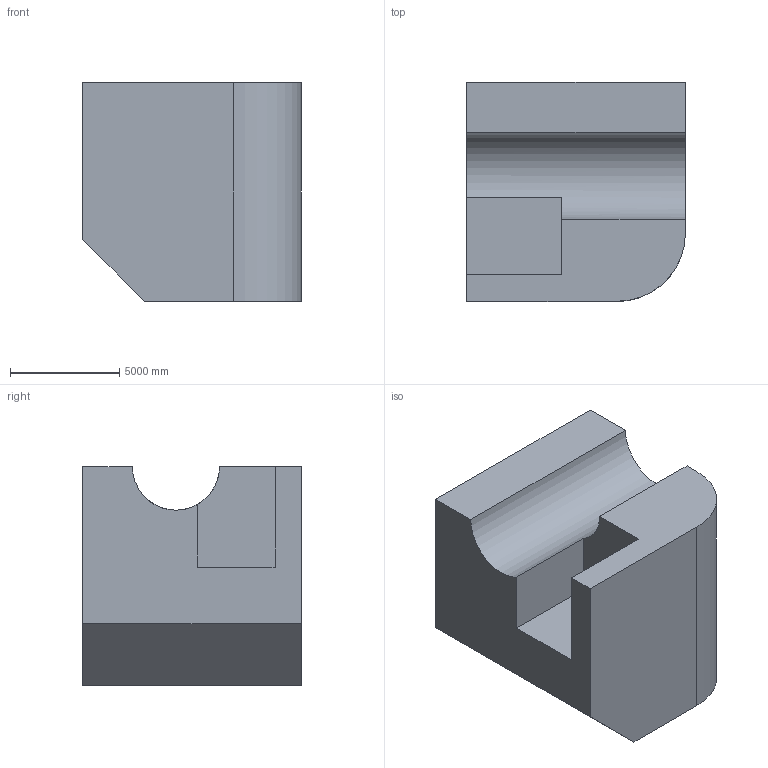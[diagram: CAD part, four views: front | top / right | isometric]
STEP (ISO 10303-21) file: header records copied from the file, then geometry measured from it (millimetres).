
FILE_DESCRIPTION (( 'STEP AP203' ), '1' );
FILE_NAME ('384.STEP', '2022-07-29T11:04:40', ( 'user' ), ( '' ), 'SwSTEP 2.0', 'SolidWorks 2021', '' );
FILE_SCHEMA (( 'CONFIG_CONTROL_DESIGN' ));
Length unit declared in the file: centimetre
Products named in the file (1): 384
Bounding box: 10000 x 10000 x 10000 mm (x, y, z)
Volume: 811482566911.7 mm3; surface area: 595820018.5 mm2
Topology: 1 solids, 1 shells, 14 faces, 36 edges, 24 vertices
Faces by surface type: plane 12, cylinder 2
Entity records: 502 total; most frequent: CARTESIAN_POINT 75, ORIENTED_EDGE 72, DIRECTION 71, EDGE_CURVE 36, LINE 31, VECTOR 31, VERTEX_POINT 24, AXIS2_PLACEMENT_3D 20
